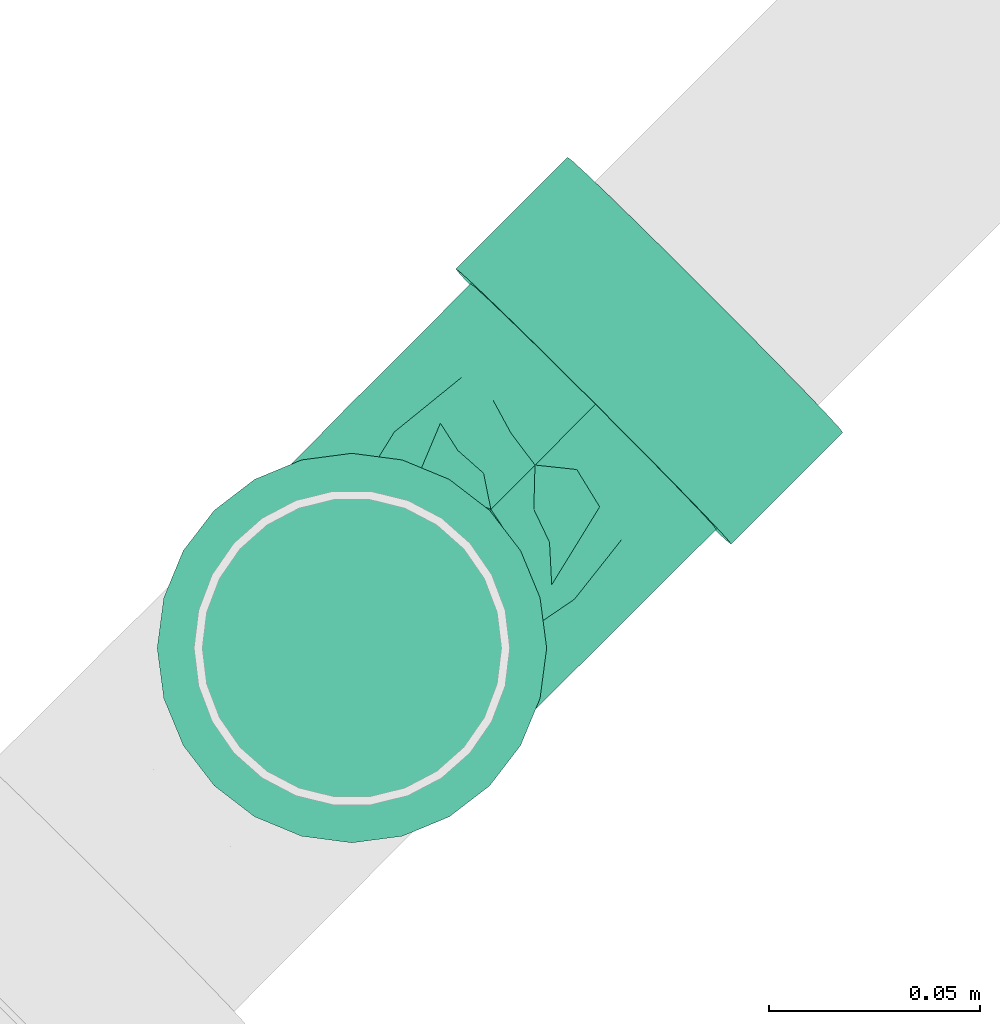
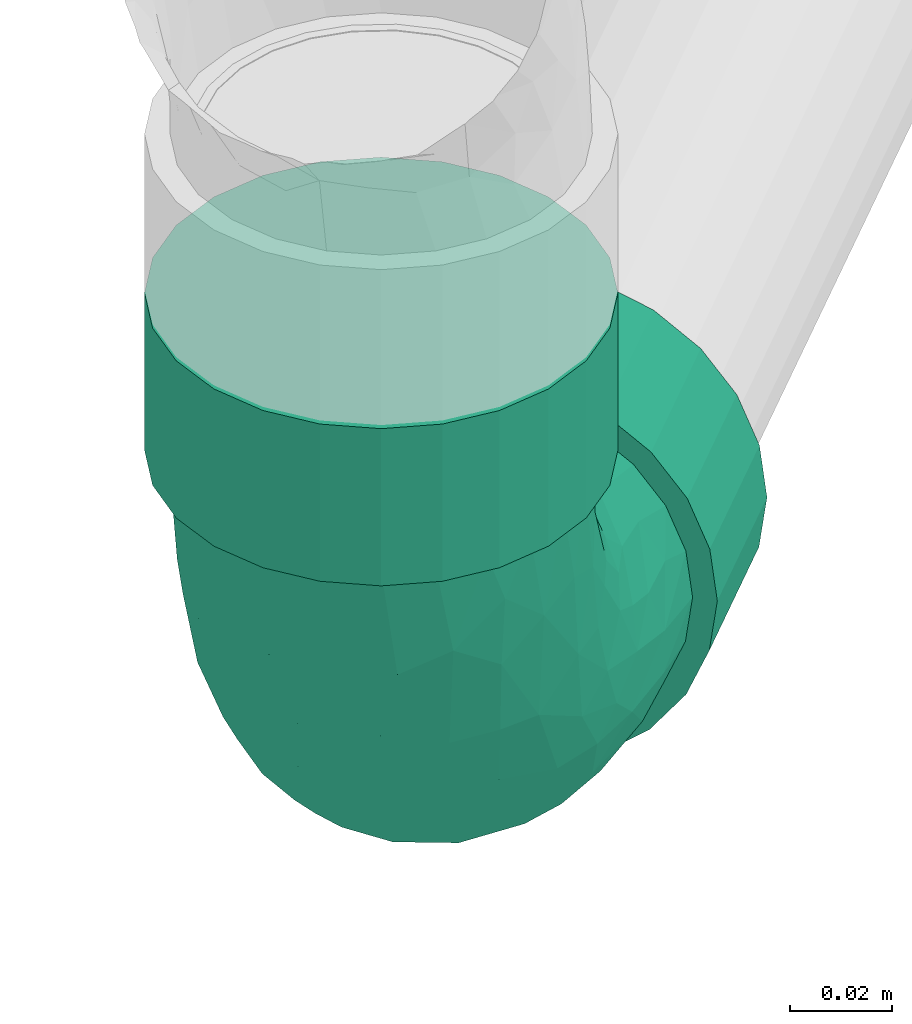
# One storey, part 57 of 83: 1 flow fitting.
"""IFC2X3 building model written with IfcOpenShell, lengths in millimetres."""

from ifc_helpers import new_model, entity, si_unit, converted_unit, derived_unit, direction, frame, origin_with_axes, place, context, subcontext, project, spatial, open_shell, surface_model, source, transform, mapped, type_object, element, save


model = new_model("IFC2X3")

# Units and contexts
model_context = context("Model", 3, precision=0.01, world=frame((0.0, 4.29681676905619e-09, 0.0)), true_north=direction((4.01073788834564e-13, 1.0)))
plan_context = context("Plan", 3, precision=0.01, world=frame((0.0, 4.29681676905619e-09, 0.0)), true_north=direction((4.01073788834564e-13, 1.0)))
body_context = subcontext(model_context, "Body", "Model", "MODEL_VIEW")
ifc_project = project(units=[converted_unit("PLANEANGLEUNIT", "DEGREE", entity("IfcPositiveLengthMeasure", 0.0174532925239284), si_unit("PLANEANGLEUNIT", "RADIAN"), dimensions=[0, 0, 0, 0, 0, 0, 0]), si_unit("AREAUNIT", "SQUARE_METRE"), si_unit("LENGTHUNIT", "METRE", prefix="MILLI"), si_unit("MASSUNIT", "GRAM", prefix="KILO"), si_unit("POWERUNIT", "WATT"), si_unit("PRESSUREUNIT", "PASCAL"), si_unit("FORCEUNIT", "NEWTON", prefix="KILO"), si_unit("ELECTRICVOLTAGEUNIT", "VOLT"), si_unit("ELECTRICCURRENTUNIT", "AMPERE"), si_unit("THERMODYNAMICTEMPERATUREUNIT", "DEGREE_CELSIUS"), si_unit("TIMEUNIT", "SECOND"), si_unit("VOLUMEUNIT", "CUBIC_METRE"), derived_unit("LINEARVELOCITYUNIT", [(si_unit("LENGTHUNIT", "METRE"), 1), (si_unit("TIMEUNIT", "SECOND"), -1)]), derived_unit("VOLUMETRICFLOWRATEUNIT", [(si_unit("VOLUMEUNIT", "CUBIC_METRE"), 1), (si_unit("TIMEUNIT", "SECOND"), -1)]), derived_unit("THERMALTRANSMITTANCEUNIT", [(si_unit("POWERUNIT", "WATT"), 1), (si_unit("THERMODYNAMICTEMPERATUREUNIT", "KELVIN"), -1), (si_unit("AREAUNIT", "SQUARE_METRE"), -1)]), derived_unit("SOUNDPRESSUREUNIT", [(si_unit("PRESSUREUNIT", "PASCAL"), 1)])], contexts=[model_context, plan_context])

# Site, building, storey
site_placement = place(None, frame((0.0, -4.29681676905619e-09, 0.0), z_axis=(0.0, 0.0, 1.0), x_axis=(1.0, 0.0, 0.0)))
site = spatial("IfcSite", under=ifc_project, at=site_placement, Name="ENGM", CompositionType="ELEMENT")
building_placement = place(site_placement, frame((0.0, 4.29681676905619e-09, 0.0), z_axis=(0.0, 0.0, 1.0), x_axis=(1.0, 0.0, 0.0)))
building = spatial("IfcBuilding", under=site, at=building_placement, Name="TI", CompositionType="ELEMENT")
storey_placement = place(building_placement, frame((0.0, 0.0, 204000.0), z_axis=(0.0, 0.0, 1.0), x_axis=(1.0, 0.0, 0.0)))
storey = spatial("IfcBuildingStorey", under=building, at=storey_placement, Name="Nivå D", CompositionType="ELEMENT", Elevation=204000.0)

# Flow fitting
pipe_fitting_type = type_object("IfcPipeFittingType", Name="magi_sewer_bend_001", PredefinedType="BEND")
shared_shape = source(origin_with_axes(), body_context, "Body", "SurfaceModel", [
    surface_model("IfcShellBasedSurfaceModel", [(-118.64093, -44.67407, -11.97038), (-118.64093, -11.97038, -44.67407), (-118.64093, -23.125, -40.05367), (-118.64093, -32.70369, -32.70369), (-118.64093, 0.0, -46.25), (-118.64093, -40.05367, -23.125), (-118.64093, -46.25, 0.0), (-118.64093, 11.97038, -44.67407), (-118.64093, 32.70369, -32.70369), (-118.64093, 23.125, -40.05367), (-118.64093, 44.67407, -11.97038), (-118.64093, 40.05367, -23.125), (-118.64093, -32.70369, 32.70369), (-118.64093, -44.67407, 11.97038), (-118.64093, -40.05367, 23.125), (-118.64093, 40.05367, 23.125), (-118.64093, -23.125, 40.05367), (-118.64093, -11.97038, 44.67407), (-118.64093, 0.0, 46.25), (-118.64093, 11.97038, 44.67407), (-118.64093, 44.67407, 11.97038), (-118.64093, 46.25, 0.0), (-118.64093, 23.125, 40.05367), (-118.64093, 32.70369, 32.70369), (-81.14093, 0.0, 46.25), (-81.14093, -11.97038, 44.67407), (-81.14093, -23.125, 40.05367), (-81.14093, -32.70369, 32.70369), (-81.14093, -40.05367, 23.125), (-81.14093, -44.67407, 11.97038), (-81.14093, 40.05367, 23.125), (-81.14093, -44.67407, -11.97038), (-81.14093, 23.125, 40.05367), (-81.14093, 32.70369, 32.70369), (-81.14093, 11.97038, 44.67407), (-81.14093, 44.67407, 11.97038), (-81.14093, 44.67407, -11.97038), (-81.14093, 46.25, 0.0), (-81.14093, -32.70369, -32.70369), (-81.14093, -40.05367, -23.125), (-81.14093, -23.125, -40.05367), (-81.14093, -11.97038, -44.67407), (-81.14093, 11.97038, -44.67407), (-81.14093, 32.70369, -32.70369), (-81.14093, 40.05367, -23.125), (-81.14093, 23.125, -40.05367), (-81.14093, 0.0, -46.25), (-81.14093, -46.25, 0.0), (-38.07762, 119.28983, 23.125), (-44.27309, 119.39274, 0.0), (-42.69738, 119.36657, 11.97038), (-9.9982, 118.82339, 44.67407), (-30.72865, 119.16775, 32.70369), (-30.72865, 119.16775, -32.70369), (-21.15128, 119.00865, 40.05367), (48.21415, 117.85639, 0.0), (-9.9982, 118.82339, -44.67407), (-42.69738, 119.36657, -11.97038), (-38.07762, 119.28983, -23.125), (-21.15128, 119.00865, -40.05367), (1.97053, 118.62456, 46.25), (13.93926, 118.42575, 44.67407), (25.09234, 118.24048, 40.05367), (34.66971, 118.08138, 32.70369), (42.01868, 117.95931, 23.125), (46.63844, 117.88257, 11.97038), (46.63844, 117.88257, -11.97038), (13.93926, 118.42575, -44.67407), (1.97053, 118.62456, -46.25), (25.09234, 118.24048, -40.05367), (42.01868, 117.95931, -23.125), (34.66971, 118.08138, -32.70369), (47.59131, 80.36156, 0.0), (46.0156, 80.38773, 11.97038), (41.39584, 80.46448, 23.125), (24.4695, 80.74565, -40.05367), (34.04686, 80.58656, 32.70369), (24.4695, 80.74565, 40.05367), (13.31642, 80.93092, 44.67407), (-10.62104, 81.32856, 44.67407), (41.39584, 80.46448, -23.125), (34.04686, 80.58656, -32.70369), (46.0156, 80.38773, -11.97038), (13.31642, 80.93092, -44.67407), (-10.62104, 81.32856, -44.67407), (1.34769, 81.12974, -46.25), (-31.35149, 81.67292, 32.70369), (-21.77412, 81.51383, 40.05367), (-38.70046, 81.795, 23.125), (-43.32022, 81.87174, 11.97038), (-43.32022, 81.87174, -11.97038), (-31.35149, 81.67292, -32.70369), (-21.77412, 81.51383, -40.05367), (-38.70046, 81.795, -23.125), (-44.89593, 81.89792, 0.0), (1.34769, 81.12974, 46.25), (-81.14093, 10.67629, -39.84444), (-81.14093, 0.0, -41.25), (-81.14093, 35.72355, -20.625), (-81.14093, 20.625, -35.72355), (-81.14093, -10.67629, -39.84444), (-81.14093, 29.16816, -29.16816), (-81.14093, 39.84444, -10.67629), (-81.14093, -29.16816, -29.16816), (-81.14093, -35.72355, -20.625), (-81.14093, -20.625, -35.72355), (-81.14093, -39.84444, -10.67629), (-81.14093, -41.25, 0.0), (-81.14093, -39.84444, 10.67629), (-81.14093, 41.25, 0.0), (-81.14093, 35.72355, 20.625), (-81.14093, 39.84444, 10.67629), (-81.14093, 10.67629, 39.84444), (-81.14093, 20.625, 35.72355), (-81.14093, 29.16816, 29.16816), (-81.14093, -35.72355, 20.625), (-81.14093, -29.16816, 29.16816), (-81.14093, -10.67629, 39.84444), (-81.14093, -20.625, 35.72355), (-81.14093, 0.0, 41.25), (-27.81644, 81.6142, -29.16816), (1.34769, 81.12974, -41.25), (-9.32713, 81.30706, -39.84444), (-19.27447, 81.47231, -35.72355), (41.18663, 80.46795, 10.67629), (41.18663, 80.46795, -10.67629), (-34.37093, 81.72308, -20.625), (21.96984, 80.78717, -35.72355), (30.51182, 80.64528, -29.16816), (12.0225, 80.95242, -39.84444), (37.06631, 80.5364, -20.625), (42.592, 80.44461, 0.0), (-38.49126, 81.79153, -10.67629), (-39.89662, 81.81487, 0.0), (-38.49126, 81.79153, 10.67629), (-34.37093, 81.72308, 20.625), (-27.81644, 81.6142, 29.16816), (-19.27447, 81.47231, 35.72355), (-9.32713, 81.30706, 39.84444), (12.0225, 80.95242, 39.84444), (1.34769, 81.12974, 41.25), (30.51182, 80.64528, 29.16816), (37.06631, 80.5364, 20.625), (21.96984, 80.78717, 35.72355), (-54.3988, -36.17405, 12.99447), (-59.16632, -32.03482, 23.17605), (-43.29127, -35.31963, 0.0), (-60.84646, -38.07022, 0.0), (23.36824, 18.86475, 10.62352), (15.0106, 9.80233, 15.95196), (11.94232, 2.37193, 8.70512), (-61.89214, -5.46812, 40.55328), (-56.57736, 6.31814, 41.17682), (32.38374, 35.45627, 8.39854), (27.13942, 25.73306, 0.0), (-58.98553, -15.54279, 37.10828), (-30.85904, -9.75954, 34.52643), (-40.1276, -0.47442, 40.00518), (-68.73273, -25.45106, 31.89233), (-35.98924, -31.79037, 8.39854), (-26.18027, -26.70827, 0.0), (-6.74598, 6.85897, 33.83538), (-14.04936, -9.83877, 26.46756), (-39.19504, 65.31692, 17.88513), (-14.23686, 70.23197, 38.62485), (-4.65634, 60.54221, 41.1461), (-62.27912, 16.19178, 38.95708), (-10.0756, 26.71496, 40.49711), (-19.57111, 7.50607, 38.60602), (-3.30595, 21.71163, 37.91015), (-70.24129, 24.97296, 33.58548), (-13.65618, 39.94905, 41.1602), (-29.73055, 30.22853, 40.21478), (-23.93735, 17.70879, 41.06236), (-62.06739, 44.7109, 9.37665), (-64.65691, 40.27449, 17.88513), (26.58914, 68.30053, 31.89233), (-63.24271, 34.37118, 27.04041), (-42.67248, 45.56363, 29.16658), (-51.89367, 44.18766, 22.91443), (-33.40208, 63.51014, 27.07271), (16.52035, 58.71924, 37.10828), (24.38086, 51.09106, 30.65881), (33.01311, 58.62609, 23.17605), (25.61884, 31.60616, 20.54404), (37.07258, 53.79047, 12.99447), (-9.06928, -18.09691, 0.0), (-19.25028, -23.05169, 10.62352), (6.49535, 61.79279, 40.55328), (-44.29422, 17.50957, 40.50757), (-39.59961, 10.04841, 41.23749), (18.24505, 8.76745, 0.0), (39.07558, 60.20575, 0.0), (-43.04198, 27.67488, 38.13024), (-32.02731, -25.09035, 20.54404), (-51.48896, -23.52891, 30.65881), (-29.00558, 52.57031, 34.64823), (-24.07527, 68.29121, 33.76761), (-50.58239, 53.8432, 7.25585), (-60.71404, 46.66281, 0.0), (19.66852, 31.77623, 27.9348), (10.27074, 30.69269, 34.52643), (10.07076, 13.88401, 26.46756), (-45.64796, 61.48069, 0.0), (-41.82474, 67.75077, 7.78721), (-37.43321, 42.98062, 33.84935), (-55.83564, 27.89949, 34.68946), (-31.91725, -18.01764, 28.91102), (-22.76918, 42.19936, 39.59486), (-32.08729, 39.39502, 37.4937), (-16.86833, 55.15252, 39.26206), (-50.12806, 50.96768, 15.38799), (1.14084, 40.11418, 40.00518), (-2.41253, -11.81835, 8.53151), (-9.7776, -14.76728, 15.71677), (-2.34691, 2.38622, 28.45041), (3.1637, -3.21669, 16.67957), (36.03379, 42.69867, 0.0), (4.58789, -4.66473, 0.0), (-62.94659, 34.45232, -27.07271), (-32.09853, -19.13803, -27.9348), (-30.85904, -9.75954, -34.52643), (-14.04936, -9.83877, -26.46756), (-60.45652, 5.66125, -41.1461), (16.52035, 58.71924, -37.10828), (10.27074, 30.69269, -34.52643), (1.14084, 40.11418, -40.00518), (-69.98582, 15.40139, -38.62485), (-23.80287, 70.64639, -33.58548), (-33.31603, 63.80486, -27.04041), (-67.04674, 42.94425, -7.78721), (10.07077, 13.88401, -26.46756), (18.54527, 31.61358, -28.91102), (-64.65691, 40.27449, -17.88513), (11.94232, 2.37193, -8.70512), (15.0106, 9.80233, -15.95196), (23.36825, 18.86475, -10.62351), (-38.85664, 32.73718, -37.4937), (-41.81536, 23.46693, -39.59486), (-52.08131, 29.87473, -34.64823), (-6.74598, 6.85897, -33.83538), (-26.54393, 10.51793, -40.49711), (-7.17997, 19.69308, -38.60602), (-21.65372, 3.66611, -37.91015), (-67.88192, 25.20621, -33.76761), (-54.3988, -36.17405, -12.99447), (-44.84858, 43.42337, -29.16658), (-59.16632, -32.03482, -23.17605), (-32.02731, -25.09035, -20.54404), (-19.25028, -23.05169, -10.62351), (-35.98925, -31.79037, -8.39854), (-58.98553, -15.54279, -37.10828), (-61.89214, -5.46812, -40.55328), (-54.86474, 17.78204, -39.26206), (-39.71672, 14.31781, -41.1602), (-15.15514, 62.53946, -38.95708), (-5.37756, 56.67449, -41.17682), (-43.67384, 62.80144, -9.37665), (-52.99563, 51.4697, -7.25585), (-26.95617, 43.4957, -38.13024), (-16.77146, 44.57893, -40.50757), (-43.31965, 52.62043, -22.91443), (6.49535, 61.79278, -40.55328), (-2.41253, -11.81835, -8.53151), (37.07258, 53.79048, -12.99447), (33.01311, 58.62609, -23.17605), (-68.73273, -25.45106, -31.89233), (-29.73055, 30.22852, -40.21479), (-17.30876, 24.22817, -41.06236), (26.58914, 68.30053, -31.89233), (-51.48896, -23.52891, -30.65881), (-39.19504, 65.31692, -17.88513), (32.38374, 35.45627, -8.39854), (-42.35295, 38.14192, -33.84935), (-26.96825, 56.29132, -34.68946), (25.61884, 31.60616, -20.54404), (24.38086, 51.09106, -30.65881), (-9.38931, 39.76104, -41.23749), (-50.12806, 50.96767, -15.38799), (-40.1276, -0.47442, -40.00517), (0.23465, -0.23857, -23.99884), (-9.7776, -14.76728, -15.71677), (3.1637, -3.21669, -16.67957)], [open_shell([[[0, 1, 2]], [[0, 2, 3]], [[1, 0, 4]], [[0, 3, 5]], [[4, 0, 6]], [[7, 8, 9]], [[8, 7, 4]], [[8, 10, 11]], [[10, 8, 4]], [[4, 6, 10]], [[6, 12, 10]], [[13, 14, 12]], [[10, 12, 15]], [[16, 17, 18]], [[16, 18, 12]], [[19, 12, 18]], [[10, 20, 21]], [[15, 20, 10]], [[15, 22, 23]], [[22, 15, 19]], [[12, 19, 15]], [[6, 13, 12]], [[24, 25, 26]], [[24, 26, 27]], [[27, 28, 29]], [[24, 27, 30]], [[27, 31, 30]], [[32, 30, 33]], [[30, 32, 34]], [[35, 36, 37]], [[30, 34, 24]], [[35, 30, 36]], [[27, 29, 31]], [[36, 30, 31]], [[38, 31, 39]], [[40, 41, 31]], [[40, 31, 38]], [[42, 31, 41]], [[36, 43, 44]], [[36, 31, 43]], [[43, 42, 45]], [[31, 42, 43]], [[41, 46, 42]], [[31, 29, 47]], [[36, 10, 37]], [[44, 11, 36]], [[9, 43, 45]], [[44, 43, 8]], [[7, 45, 42]], [[36, 11, 10]], [[10, 21, 37]], [[7, 9, 45]], [[8, 43, 9]], [[8, 11, 44]], [[4, 7, 42]], [[42, 46, 4]], [[46, 41, 1]], [[5, 39, 31]], [[39, 3, 38]], [[0, 31, 47]], [[1, 40, 2]], [[40, 1, 41]], [[40, 38, 2]], [[38, 3, 2]], [[39, 5, 3]], [[0, 5, 31]], [[47, 6, 0]], [[46, 1, 4]], [[29, 13, 47]], [[28, 14, 29]], [[16, 27, 26]], [[28, 27, 12]], [[17, 26, 25]], [[29, 14, 13]], [[13, 6, 47]], [[17, 16, 26]], [[12, 27, 16]], [[12, 14, 28]], [[18, 17, 25]], [[25, 24, 18]], [[33, 22, 32]], [[35, 15, 30]], [[33, 30, 23]], [[20, 35, 37]], [[32, 19, 34]], [[32, 22, 19]], [[19, 18, 34]], [[33, 23, 22]], [[30, 15, 23]], [[20, 15, 35]], [[37, 21, 20]], [[34, 18, 24]], [[48, 49, 50]], [[51, 48, 52]], [[53, 48, 51]], [[51, 52, 54]], [[55, 56, 51]], [[48, 57, 49]], [[48, 58, 57]], [[53, 56, 59]], [[58, 48, 53]], [[51, 56, 53]], [[51, 60, 61]], [[61, 62, 63]], [[61, 63, 64]], [[64, 65, 55]], [[55, 51, 64]], [[55, 66, 56]], [[56, 67, 68]], [[69, 67, 56]], [[69, 70, 71]], [[70, 69, 66]], [[66, 69, 56]], [[64, 51, 61]], [[72, 73, 74]], [[75, 72, 74]], [[76, 77, 78]], [[79, 75, 74]], [[74, 76, 79]], [[80, 75, 81]], [[75, 80, 82]], [[83, 84, 85]], [[75, 82, 72]], [[83, 75, 84]], [[76, 78, 79]], [[84, 75, 79]], [[86, 79, 87]], [[88, 89, 79]], [[88, 79, 86]], [[90, 79, 89]], [[84, 91, 92]], [[84, 79, 91]], [[91, 90, 93]], [[79, 90, 91]], [[89, 94, 90]], [[79, 78, 95]], [[84, 56, 85]], [[92, 59, 84]], [[58, 91, 93]], [[92, 91, 53]], [[57, 93, 90]], [[84, 59, 56]], [[56, 68, 85]], [[57, 58, 93]], [[53, 91, 58]], [[53, 59, 92]], [[49, 57, 90]], [[90, 94, 49]], [[94, 89, 50]], [[54, 87, 79]], [[87, 52, 86]], [[51, 79, 95]], [[50, 88, 48]], [[88, 50, 89]], [[88, 86, 48]], [[86, 52, 48]], [[87, 54, 52]], [[51, 54, 79]], [[95, 60, 51]], [[94, 50, 49]], [[78, 61, 95]], [[77, 62, 78]], [[64, 76, 74]], [[77, 76, 63]], [[65, 74, 73]], [[78, 62, 61]], [[61, 60, 95]], [[65, 64, 74]], [[63, 76, 64]], [[63, 62, 77]], [[55, 65, 73]], [[73, 72, 55]], [[81, 70, 80]], [[83, 69, 75]], [[81, 75, 71]], [[67, 83, 85]], [[80, 66, 82]], [[80, 70, 66]], [[66, 55, 82]], [[81, 71, 70]], [[75, 69, 71]], [[67, 69, 83]], [[85, 68, 67]], [[82, 55, 72]], [[96, 97, 98]], [[99, 96, 98]], [[100, 98, 97]], [[101, 99, 98]], [[102, 98, 100]], [[103, 104, 105]], [[100, 105, 104]], [[104, 106, 100]], [[106, 102, 100]], [[107, 108, 106]], [[109, 102, 106]], [[110, 111, 109]], [[108, 110, 106]], [[112, 113, 114]], [[108, 114, 110]], [[114, 108, 112]], [[115, 116, 108]], [[117, 108, 116]], [[118, 117, 116]], [[117, 112, 108]], [[117, 119, 112]], [[109, 106, 110]], [[120, 121, 122]], [[120, 122, 123]], [[124, 125, 120]], [[121, 120, 125]], [[124, 120, 126]], [[127, 125, 128]], [[127, 129, 121]], [[128, 125, 130]], [[121, 125, 127]], [[125, 124, 131]], [[126, 132, 124]], [[133, 134, 135]], [[133, 135, 136]], [[136, 137, 138]], [[133, 136, 139]], [[140, 136, 138]], [[124, 141, 142]], [[124, 133, 141]], [[141, 139, 143]], [[133, 139, 141]], [[136, 140, 139]], [[133, 124, 132]], [[144, 145, 115]], [[146, 144, 147]], [[148, 149, 150]], [[144, 115, 108]], [[108, 147, 144]], [[119, 151, 152]], [[116, 115, 145]], [[153, 148, 154]], [[155, 156, 157]], [[158, 118, 116]], [[155, 118, 158]], [[159, 146, 160]], [[161, 156, 162]], [[163, 135, 134]], [[138, 164, 165]], [[112, 166, 113]], [[167, 168, 169]], [[113, 170, 114]], [[117, 151, 119]], [[171, 172, 173]], [[174, 111, 175]], [[175, 111, 110]], [[176, 141, 143]], [[109, 111, 174]], [[177, 178, 179]], [[180, 163, 178]], [[177, 110, 114]], [[119, 152, 112]], [[181, 182, 176]], [[114, 170, 177]], [[183, 184, 185]], [[180, 135, 163]], [[160, 186, 187]], [[140, 188, 139]], [[160, 187, 159]], [[140, 138, 165]], [[189, 190, 173]], [[185, 124, 142]], [[142, 141, 183]], [[183, 185, 142]], [[148, 191, 154]], [[185, 192, 124]], [[193, 166, 189]], [[145, 194, 195]], [[180, 196, 197]], [[198, 199, 174]], [[200, 201, 202]], [[203, 204, 133]], [[193, 205, 206]], [[163, 134, 204]], [[181, 143, 139]], [[180, 136, 135]], [[162, 156, 207]], [[208, 196, 209]], [[118, 155, 117]], [[197, 137, 136]], [[164, 138, 137]], [[210, 171, 165]], [[182, 181, 201]], [[153, 184, 148]], [[196, 180, 178]], [[166, 112, 152]], [[206, 178, 177]], [[175, 179, 211]], [[210, 208, 171]], [[188, 165, 212]], [[156, 155, 195]], [[151, 155, 157]], [[207, 194, 162]], [[156, 161, 168]], [[188, 181, 139]], [[168, 161, 169]], [[212, 201, 181]], [[201, 161, 202]], [[184, 200, 202]], [[187, 213, 214]], [[194, 145, 144]], [[158, 145, 195]], [[176, 183, 141]], [[184, 183, 182]], [[189, 166, 152]], [[170, 166, 206]], [[193, 209, 205]], [[210, 164, 197]], [[177, 175, 110]], [[174, 175, 211]], [[198, 204, 203]], [[211, 179, 163]], [[214, 194, 187]], [[215, 216, 202]], [[162, 215, 161]], [[149, 216, 150]], [[189, 173, 172]], [[212, 165, 171]], [[168, 173, 157]], [[171, 173, 167]], [[165, 188, 140]], [[181, 188, 212]], [[155, 151, 117]], [[152, 151, 157]], [[108, 107, 147]], [[192, 185, 217]], [[192, 131, 124]], [[213, 187, 186]], [[159, 194, 144]], [[213, 150, 216]], [[185, 153, 217]], [[184, 202, 149]], [[189, 152, 190]], [[193, 189, 172]], [[209, 193, 172]], [[166, 193, 206]], [[208, 209, 172]], [[205, 209, 196]], [[198, 174, 211]], [[174, 199, 109]], [[204, 211, 163]], [[199, 198, 203]], [[204, 198, 211]], [[133, 204, 134]], [[152, 157, 190]], [[157, 173, 190]], [[171, 208, 172]], [[196, 208, 210]], [[177, 179, 175]], [[163, 179, 178]], [[218, 191, 150]], [[214, 213, 216]], [[150, 213, 218]], [[191, 148, 150]], [[213, 186, 218]], [[184, 149, 148]], [[202, 216, 149]], [[216, 162, 214]], [[194, 214, 162]], [[196, 178, 205]], [[206, 205, 178]], [[180, 197, 136]], [[210, 197, 196]], [[156, 168, 157]], [[161, 201, 169]], [[201, 212, 169]], [[167, 169, 212]], [[171, 167, 212]], [[168, 167, 173]], [[194, 159, 187]], [[146, 159, 144]], [[217, 153, 154]], [[184, 153, 185]], [[166, 170, 113]], [[177, 170, 206]], [[197, 164, 137]], [[165, 164, 210]], [[145, 158, 116]], [[155, 158, 195]], [[181, 176, 143]], [[183, 176, 182]], [[156, 195, 207]], [[194, 207, 195]], [[184, 182, 200]], [[201, 200, 182]], [[216, 215, 162]], [[202, 161, 215]], [[98, 219, 101]], [[220, 221, 222]], [[97, 96, 223]], [[224, 225, 226]], [[96, 99, 227]], [[120, 228, 229]], [[199, 230, 109]], [[231, 225, 232]], [[233, 102, 230]], [[234, 235, 236]], [[237, 238, 239]], [[225, 231, 240]], [[241, 242, 243]], [[244, 99, 101]], [[104, 245, 106]], [[127, 224, 129]], [[245, 147, 106]], [[239, 219, 246]], [[245, 104, 247]], [[219, 98, 233]], [[248, 249, 250]], [[219, 233, 246]], [[251, 105, 100]], [[125, 131, 192]], [[252, 100, 97]], [[248, 245, 247]], [[253, 254, 223]], [[255, 122, 256]], [[257, 258, 203]], [[259, 255, 260]], [[133, 132, 257]], [[219, 239, 244]], [[261, 229, 246]], [[121, 262, 256]], [[234, 218, 263]], [[120, 123, 228]], [[255, 123, 122]], [[264, 265, 130]], [[121, 129, 262]], [[98, 102, 233]], [[266, 103, 105]], [[120, 229, 126]], [[254, 267, 268]], [[269, 224, 127]], [[270, 266, 251]], [[257, 132, 271]], [[121, 256, 122]], [[217, 154, 272]], [[128, 130, 265]], [[269, 127, 128]], [[264, 125, 192]], [[270, 251, 221]], [[264, 192, 217]], [[249, 186, 160]], [[154, 191, 236]], [[125, 264, 130]], [[259, 273, 274]], [[96, 227, 223]], [[265, 275, 276]], [[132, 126, 271]], [[260, 277, 268]], [[104, 103, 247]], [[274, 246, 229]], [[271, 261, 278]], [[253, 238, 254]], [[252, 223, 279]], [[252, 251, 100]], [[242, 240, 243]], [[279, 221, 251]], [[221, 240, 222]], [[225, 224, 276]], [[262, 224, 226]], [[232, 275, 231]], [[225, 240, 242]], [[250, 249, 160]], [[248, 220, 222]], [[266, 247, 103]], [[248, 247, 270]], [[275, 265, 264]], [[269, 265, 276]], [[260, 255, 256]], [[228, 255, 274]], [[259, 237, 273]], [[253, 227, 244]], [[229, 271, 126]], [[257, 271, 278]], [[258, 230, 199]], [[278, 261, 233]], [[280, 240, 231]], [[281, 282, 263]], [[235, 275, 236]], [[280, 282, 281]], [[260, 268, 267]], [[279, 223, 254]], [[242, 268, 226]], [[254, 268, 241]], [[223, 252, 97]], [[251, 252, 279]], [[224, 262, 129]], [[256, 262, 226]], [[147, 245, 146]], [[147, 107, 106]], [[249, 263, 186]], [[245, 250, 146]], [[248, 222, 281]], [[154, 236, 272]], [[234, 263, 282]], [[272, 275, 264]], [[260, 256, 277]], [[259, 260, 267]], [[237, 259, 267]], [[255, 259, 274]], [[238, 237, 267]], [[273, 237, 239]], [[258, 257, 278]], [[257, 203, 133]], [[230, 278, 233]], [[203, 258, 199]], [[230, 258, 278]], [[109, 230, 102]], [[256, 226, 277]], [[226, 268, 277]], [[254, 238, 267]], [[239, 238, 253]], [[229, 261, 271]], [[233, 261, 246]], [[281, 263, 249]], [[235, 234, 282]], [[236, 191, 234]], [[280, 235, 282]], [[218, 234, 191]], [[218, 186, 263]], [[275, 235, 231]], [[248, 281, 249]], [[280, 281, 222]], [[239, 246, 273]], [[274, 273, 246]], [[219, 244, 101]], [[253, 244, 239]], [[225, 242, 226]], [[240, 221, 243]], [[221, 279, 243]], [[241, 243, 279]], [[254, 241, 279]], [[242, 241, 268]], [[146, 250, 160]], [[248, 250, 245]], [[275, 272, 236]], [[217, 272, 264]], [[255, 228, 123]], [[229, 228, 274]], [[244, 227, 99]], [[223, 227, 253]], [[251, 266, 105]], [[247, 266, 270]], [[265, 269, 128]], [[224, 269, 276]], [[248, 270, 220]], [[221, 220, 270]], [[225, 276, 232]], [[275, 232, 276]], [[240, 280, 222]], [[235, 280, 231]]])]),
])
flow_fitting_placement = place(storey_placement, frame((601739.62406, 693673.12319, 6059.16498), z_axis=(0.707106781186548, -0.707106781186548, 0.0), x_axis=(0.0, 0.0, -1.0)))
element("IfcFlowFitting", 1, at=flow_fitting_placement, inside=storey, type_object=pipe_fitting_type, Name="magi_sewer_bend_001", context=body_context, shape_type="MappedRepresentation", body=[
    mapped(shared_shape, transform((0.0, 0.0, 0.0), scale=1.0)),
])

save(model, "model.ifc")
